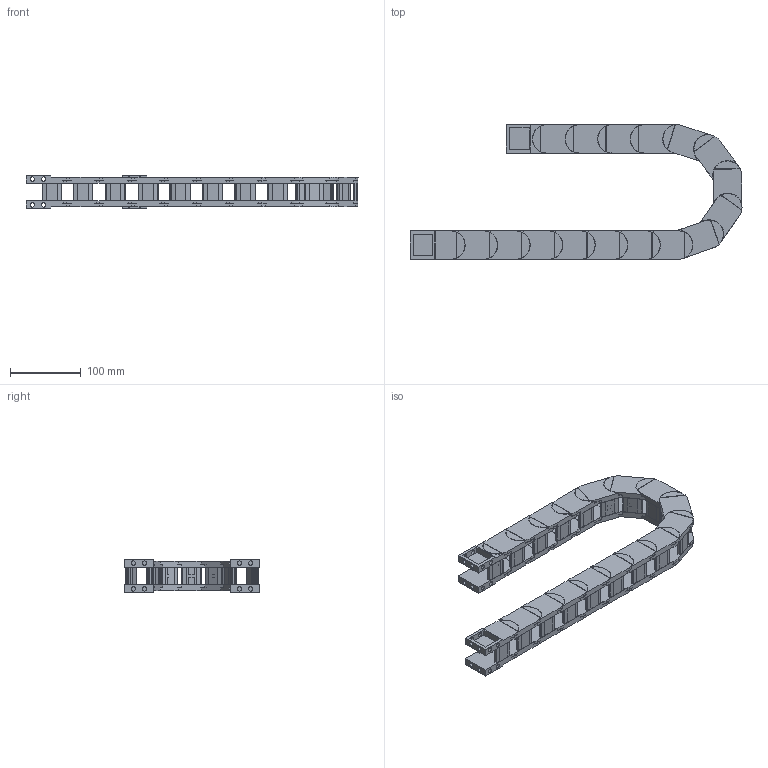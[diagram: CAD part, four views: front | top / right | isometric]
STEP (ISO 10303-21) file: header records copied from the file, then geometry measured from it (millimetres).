
FILE_DESCRIPTION((''),'2;1');
FILE_NAME('HD25-R75-ZPT_ASM','2022-06-05T16:28:57',('admin'),(''),'CREO PARAMETRIC BY PTC INC, 2021164','CREO PARAMETRIC BY PTC INC, 2021164','');
FILE_SCHEMA(('CONFIG_CONTROL_DESIGN','GEOMETRIC_VALIDATION_PROPERTIES_MIM'));
Length unit declared in the file: millimetre
Products named in the file (6): HD-25_8; 25XL-QSYP-25; HD25_ASM; H25-T1; H25-T2; HD25-R75-ZPT_ASM
Assembly tree (22 placements, depth 3):
  HD25-R75-ZPT_ASM
    HD25_ASM  x16
      HD-25_8
      25XL-QSYP-25
    H25-T1
    H25-T2
    25XL-QSYP-25  x2
Bounding box: 469.26 x 189.98 x 45.8 mm (x, y, z)
Volume: 676753.4 mm3; surface area: 368422.8 mm2
Topology: 72 solids, 72 shells, 1570 faces, 4067 edges, 2717 vertices
Faces by surface type: plane 1170, cylinder 400
Entity records: 9870 total; most frequent: CARTESIAN_POINT 1447, DIRECTION 1390, ORIENTED_EDGE 1336, EDGE_CURVE 668, VECTOR 498, LINE 498, AXIS2_PLACEMENT_3D 446, VERTEX_POINT 446
